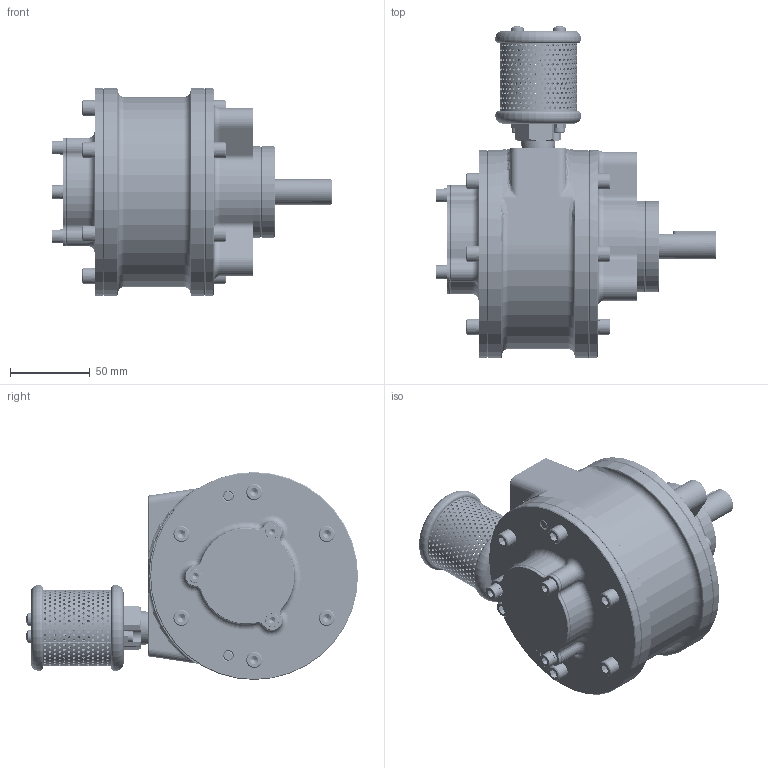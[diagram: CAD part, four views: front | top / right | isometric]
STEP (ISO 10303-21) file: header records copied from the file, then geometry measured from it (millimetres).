
FILE_DESCRIPTION (( 'STEP AP214' ), '1' );
FILE_NAME ('6VML-SS (Face).STEP', '2026-04-24T05:23:14', ( '' ), ( '' ), 'SwSTEP 2.0', 'SolidWorks 2017', '' );
FILE_SCHEMA (( 'AUTOMOTIVE_DESIGN' ));
Length unit declared in the file: millimetre
Products named in the file (2): 6VML-SS (Face)
Bounding box: 175.15 x 207.72 x 130 mm (x, y, z)
Volume: 626276.7 mm3; surface area: 230049.8 mm2
Topology: 58 solids, 58 shells, 4714 faces, 12211 edges, 7522 vertices
Faces by surface type: cylinder 2507, cone 1359, plane 637, torus 157, bspline 32, sphere 22
Entity records: 236858 total; most frequent: CARTESIAN_POINT 71653, ORIENTED_EDGE 24174, DIRECTION 21752, EDGE_CURVE 12087, AXIS2_PLACEMENT_3D 8500, VERTEX_POINT 7522, EDGE_LOOP 6345, LINE 4752
